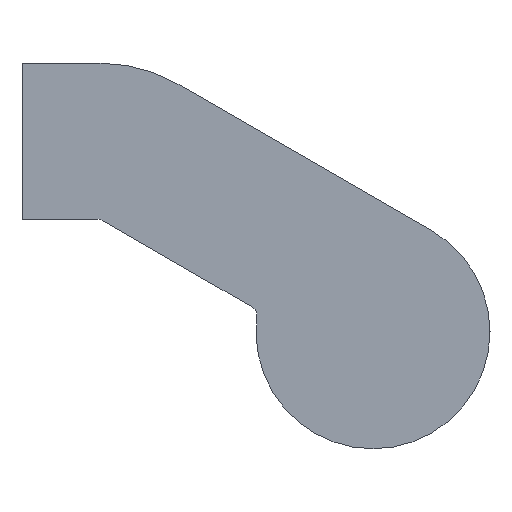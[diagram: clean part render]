
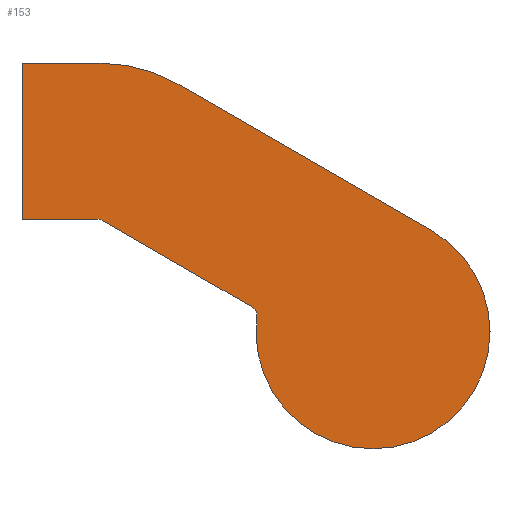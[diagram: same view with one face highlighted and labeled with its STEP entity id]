
A CAD part, left-side view. The second image highlights one B-rep face of the part: STEP entity #153.
In plain terms, the highlighted planar face has unit normal (-1, 0, 0).
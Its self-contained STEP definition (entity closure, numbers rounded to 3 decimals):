
#139 = EDGE_CURVE( '', #155, #335, #385, .T. );
#141 = EDGE_CURVE( '', #287, #173, #387, .T. );
#143 = VERTEX_POINT( '', #389 );
#145 = VERTEX_POINT( '', #391 );
#153 = ADVANCED_FACE( '', ( #399 ), #400, .F. );
#155 = VERTEX_POINT( '', #402 );
#173 = VERTEX_POINT( '', #423 );
#185 = EDGE_CURVE( '', #261, #277, #436, .T. );
#189 = EDGE_CURVE( '', #173, #261, #440, .T. );
#201 = EDGE_CURVE( '', #363, #145, #453, .T. );
#247 = EDGE_CURVE( '', #143, #287, #506, .T. );
#259 = EDGE_CURVE( '', #277, #155, #518, .T. );
#261 = VERTEX_POINT( '', #520 );
#269 = EDGE_CURVE( '', #335, #279, #528, .T. );
#277 = VERTEX_POINT( '', #538 );
#279 = VERTEX_POINT( '', #540 );
#287 = VERTEX_POINT( '', #548 );
#289 = EDGE_CURVE( '', #279, #363, #550, .T. );
#335 = VERTEX_POINT( '', #600 );
#345 = EDGE_CURVE( '', #145, #143, #615, .T. );
#363 = VERTEX_POINT( '', #636 );
#385 = CIRCLE( '', #650, 0.5 );
#387 = CIRCLE( '', #653, 6. );
#389 = CARTESIAN_POINT( '', ( -245., -8., 2.928 ) );
#391 = CARTESIAN_POINT( '', ( -245., -4., 4. ) );
#399 = FACE_OUTER_BOUND( '', #667, .T. );
#400 = PLANE( '', #668 );
#402 = CARTESIAN_POINT( '', ( -245., -4.116, -4.067 ) );
#423 = CARTESIAN_POINT( '', ( -245., -15., -14.97 ) );
#436 = CIRCLE( '', #715, 0.5 );
#440 = CIRCLE( '', #720, 6. );
#453 = LINE( '', #735, #736 );
#506 = LINE( '', #806, #807 );
#518 = LINE( '', #827, #828 );
#520 = CARTESIAN_POINT( '', ( -245., -12.05, -9.003 ) );
#528 = LINE( '', #842, #843 );
#538 = CARTESIAN_POINT( '', ( -245., -11.804, -8.506 ) );
#540 = CARTESIAN_POINT( '', ( -245., 0., -4. ) );
#548 = CARTESIAN_POINT( '', ( -245., -21., -4.577 ) );
#550 = LINE( '', #870, #871 );
#600 = CARTESIAN_POINT( '', ( -245., -3.866, -4. ) );
#615 = CIRCLE( '', #957, 8. );
#636 = CARTESIAN_POINT( '', ( -245., 0., 4. ) );
#650 = AXIS2_PLACEMENT_3D( '', #988, #989, #990 );
#653 = AXIS2_PLACEMENT_3D( '', #991, #992, #993 );
#667 = EDGE_LOOP( '', ( #1001, #1002, #1003, #1004, #1005, #1006, #1007, #1008, #1009, #1010 ) );
#668 = AXIS2_PLACEMENT_3D( '', #1011, #1012, #1013 );
#715 = AXIS2_PLACEMENT_3D( '', #1061, #1062, #1063 );
#720 = AXIS2_PLACEMENT_3D( '', #1064, #1065, #1066 );
#735 = CARTESIAN_POINT( '', ( -245., 0., 4. ) );
#736 = VECTOR( '', #1078, 1. );
#806 = CARTESIAN_POINT( '', ( -245., -8., 2.928 ) );
#807 = VECTOR( '', #1142, 1. );
#827 = CARTESIAN_POINT( '', ( -245., -11.804, -8.506 ) );
#828 = VECTOR( '', #1149, 1. );
#842 = CARTESIAN_POINT( '', ( -245., -3.866, -4. ) );
#843 = VECTOR( '', #1154, 1. );
#870 = CARTESIAN_POINT( '', ( -245., 0., -4. ) );
#871 = VECTOR( '', #1178, 1. );
#957 = AXIS2_PLACEMENT_3D( '', #1262, #1263, #1264 );
#988 = CARTESIAN_POINT( '', ( -245., -3.866, -4.5 ) );
#989 = DIRECTION( '', ( -1., 0., 0. ) );
#990 = DIRECTION( '', ( 0., -0.5, 0.866 ) );
#991 = CARTESIAN_POINT( '', ( -245., -18., -9.774 ) );
#992 = DIRECTION( '', ( 1., 0., 0. ) );
#993 = DIRECTION( '', ( 0., -0.5, 0.866 ) );
#1001 = ORIENTED_EDGE( '', *, *, #345, .F. );
#1002 = ORIENTED_EDGE( '', *, *, #201, .F. );
#1003 = ORIENTED_EDGE( '', *, *, #289, .F. );
#1004 = ORIENTED_EDGE( '', *, *, #269, .F. );
#1005 = ORIENTED_EDGE( '', *, *, #139, .F. );
#1006 = ORIENTED_EDGE( '', *, *, #259, .F. );
#1007 = ORIENTED_EDGE( '', *, *, #185, .F. );
#1008 = ORIENTED_EDGE( '', *, *, #189, .F. );
#1009 = ORIENTED_EDGE( '', *, *, #141, .F. );
#1010 = ORIENTED_EDGE( '', *, *, #247, .F. );
#1011 = CARTESIAN_POINT( '', ( -245., 0., 0. ) );
#1012 = DIRECTION( '', ( 1., 0., 0. ) );
#1013 = DIRECTION( '', ( 0., 0., -1. ) );
#1061 = CARTESIAN_POINT( '', ( -245., -11.554, -8.939 ) );
#1062 = DIRECTION( '', ( -1., 0., 0. ) );
#1063 = DIRECTION( '', ( 0., -0.992, -0.128 ) );
#1064 = CARTESIAN_POINT( '', ( -245., -18., -9.774 ) );
#1065 = DIRECTION( '', ( 1., 0., 0. ) );
#1066 = DIRECTION( '', ( 0., -0.5, 0.866 ) );
#1078 = DIRECTION( '', ( 0., -1., 0. ) );
#1142 = DIRECTION( '', ( 0., -0.866, -0.5 ) );
#1149 = DIRECTION( '', ( 0., 0.866, 0.5 ) );
#1154 = DIRECTION( '', ( 0., 1., 0. ) );
#1178 = DIRECTION( '', ( 0., 0., 1. ) );
#1262 = CARTESIAN_POINT( '', ( -245., -4., -4. ) );
#1263 = DIRECTION( '', ( 1., 0., 0. ) );
#1264 = DIRECTION( '', ( 0., 0., 1. ) );
